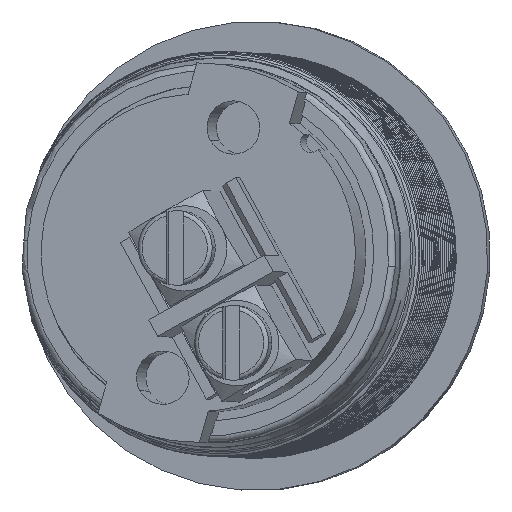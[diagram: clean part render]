
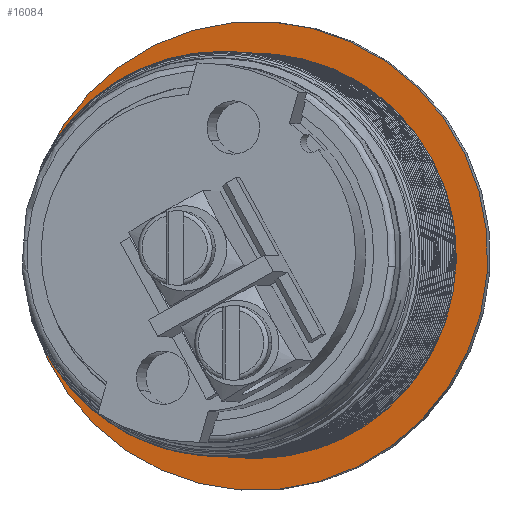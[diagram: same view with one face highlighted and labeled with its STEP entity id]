
A CAD part, front view. The second image highlights one B-rep face of the part: STEP entity #16084.
In plain terms, the highlighted planar face has unit normal (-0.148, -0.989, 0.009).
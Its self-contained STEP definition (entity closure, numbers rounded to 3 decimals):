
#49=CARTESIAN_POINT('',(41.396,26.218,-23.785));
#50=DIRECTION('',(0.148,0.989,-0.009));
#51=DIRECTION('',(-0.986,0.148,0.071));
#52=AXIS2_PLACEMENT_3D('',#49,#50,#51);
#54=CARTESIAN_POINT('',(41.396,26.218,-23.785));
#55=DIRECTION('',(-0.148,-0.989,0.009));
#56=DIRECTION('',(-0.986,0.148,0.071));
#57=AXIS2_PLACEMENT_3D('',#54,#55,#56);
#59=DIRECTION('',(0.071,-0.002,0.997));
#60=VECTOR('',#59,7.399);
#61=CARTESIAN_POINT('',(32.501,27.52,-26.855));
#62=LINE('',#61,#60);
#63=CARTESIAN_POINT('',(41.396,26.218,-23.785));
#64=DIRECTION('',(0.148,0.989,-0.009));
#65=DIRECTION('',(0.974,-0.147,-0.175));
#66=AXIS2_PLACEMENT_3D('',#63,#64,#65);
#72=CARTESIAN_POINT('',(41.396,26.218,-23.785));
#73=DIRECTION('',(0.148,0.989,-0.009));
#74=DIRECTION('',(-0.881,0.135,0.454));
#75=AXIS2_PLACEMENT_3D('',#72,#73,#74);
#5805=CARTESIAN_POINT('',(41.396,26.218,-23.785));
#5806=DIRECTION('',(-0.148,-0.989,0.009));
#5807=DIRECTION('',(-0.936,0.137,-0.323));
#5808=AXIS2_PLACEMENT_3D('',#5805,#5806,#5807);
#15166=CARTESIAN_POINT('',(30.545,27.845,
-23.005));
#15167=VERTEX_POINT('',#15166);
#15172=CARTESIAN_POINT('',(52.247,24.591,
-24.564));
#15173=VERTEX_POINT('',#15172);
#15182=CARTESIAN_POINT('',(50.646,24.823,
-25.444));
#15183=CARTESIAN_POINT('',(32.56,27.51,
-27.024));
#15184=VERTEX_POINT('',#15182);
#15185=VERTEX_POINT('',#15183);
#15299=CARTESIAN_POINT('',(33.029,27.505,
-19.474));
#15301=VERTEX_POINT('',#15299);
#15375=CARTESIAN_POINT('',(32.501,27.52,
-26.855));
#15377=VERTEX_POINT('',#15375);
#16065=CARTESIAN_POINT('',(41.396,26.218,
-23.785));
#16066=DIRECTION('',(0.148,0.989,-0.009));
#16067=DIRECTION('',(0.986,-0.148,-0.071));
#16068=AXIS2_PLACEMENT_3D('',#16065,#16066,#16067);
#16069=PLANE('',#16068);
#16070=ORIENTED_EDGE('',*,*,#16047,.T.);
#16071=ORIENTED_EDGE('',*,*,#16058,.F.);
#16072=EDGE_LOOP('',(#16070,#16071));
#16073=FACE_OUTER_BOUND('',#16072,.F.);
#16075=ORIENTED_EDGE('',*,*,#16074,.F.);
#16077=ORIENTED_EDGE('',*,*,#16076,.F.);
#16079=ORIENTED_EDGE('',*,*,#16078,.T.);
#16081=ORIENTED_EDGE('',*,*,#16080,.F.);
#16082=EDGE_LOOP('',(#16075,#16077,#16079,#16081));
#16083=FACE_BOUND('',#16082,.F.);
#16084=ADVANCED_FACE('',(#16073,#16083),#16069,.F.);
#53=CIRCLE('',#52,11.);
#58=CIRCLE('',#57,11.);
#67=CIRCLE('',#66,9.5);
#76=CIRCLE('',#75,9.5);
#5809=CIRCLE('',#5808,9.5);
#16047=EDGE_CURVE('',#15167,#15173,#53,.T.);
#16058=EDGE_CURVE('',#15167,#15173,#58,.T.);
#16074=EDGE_CURVE('',#15301,#15184,#76,.T.);
#16076=EDGE_CURVE('',#15377,#15301,#62,.T.);
#16078=EDGE_CURVE('',#15377,#15185,#5809,.T.);
#16080=EDGE_CURVE('',#15184,#15185,#67,.T.);
